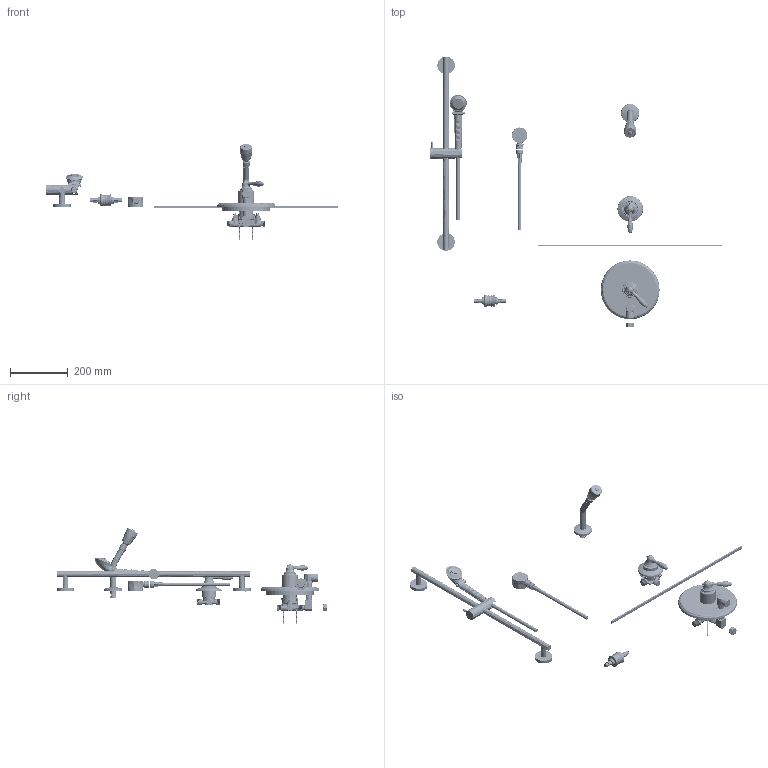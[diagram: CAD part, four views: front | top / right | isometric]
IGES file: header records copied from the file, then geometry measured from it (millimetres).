
Start section:  PTC IGES file: sh-tp4-22-031_REV050525.igs
Global section: file name: sh-tp4-22-031_REV050525.igs; native system: Creo Parametric by PTC Inc.; preprocessor: 2024253; author: rodjo; organization: Unknown; date: 20250505.160610; units: inch
Bounding box: 1008.5 x 934.18 x 331.92 mm (x, y, z)
Surface area: 464444.7 mm2 (no closed solid volume)
Topology: 0 solids, 0 shells, 1839 faces, 11162 edges, 11128 vertices
Faces by surface type: revolution 1347, bspline 486, extrusion 6
